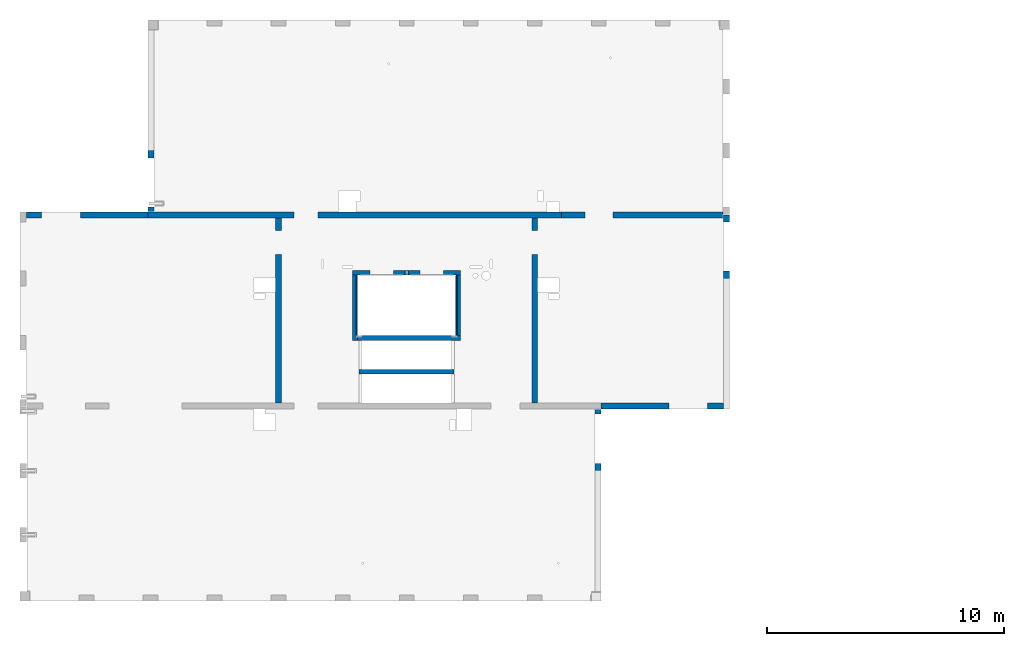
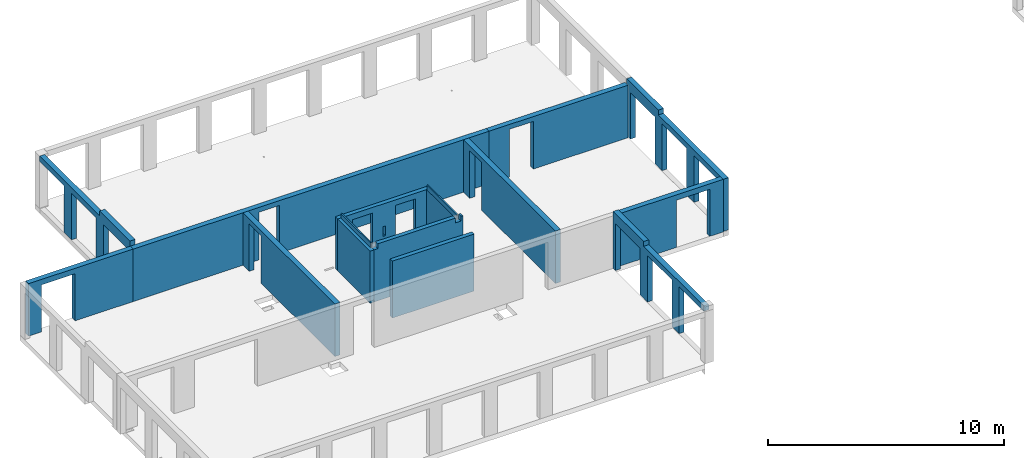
# One storey, part 3 of 11: 16 walls, 23 openings.
"""IFC2X3 building model written with IfcOpenShell, lengths in millimetres."""

from ifc_helpers import new_model, entity, si_unit, converted_unit, derived_unit, direction, frame, frame_2d, origin, origin_2d_with_axis, place, context, subcontext, project, spatial, rectangle, extrude, material, layer, layer_set, layer_usage, type_object, element, save


model = new_model("IFC2X3")

# Units and contexts
model_context = context("Model", 3, precision=0.01, world=origin(), true_north=direction((6.12303176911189e-17, 1.0)))
body_context = subcontext(model_context, "Body", "Model", "MODEL_VIEW")
ifc_project = project(units=[si_unit("LENGTHUNIT", "METRE", prefix="MILLI"), si_unit("AREAUNIT", "SQUARE_METRE"), si_unit("VOLUMEUNIT", "CUBIC_METRE"), converted_unit("PLANEANGLEUNIT", "DEGREE", entity("IfcRatioMeasure", 0.0174532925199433), si_unit("PLANEANGLEUNIT", "RADIAN"), dimensions=[0, 0, 0, 0, 0, 0, 0]), si_unit("MASSUNIT", "GRAM", prefix="KILO"), derived_unit("MASSDENSITYUNIT", [(si_unit("MASSUNIT", "GRAM", prefix="KILO"), 1), (si_unit("LENGTHUNIT", "METRE"), -3)]), si_unit("TIMEUNIT", "SECOND"), si_unit("FREQUENCYUNIT", "HERTZ"), si_unit("THERMODYNAMICTEMPERATUREUNIT", "DEGREE_CELSIUS"), derived_unit("THERMALTRANSMITTANCEUNIT", [(si_unit("MASSUNIT", "GRAM", prefix="KILO"), 1), (si_unit("THERMODYNAMICTEMPERATUREUNIT", "KELVIN"), -1), (si_unit("TIMEUNIT", "SECOND"), -3)]), derived_unit("VOLUMETRICFLOWRATEUNIT", [(si_unit("LENGTHUNIT", "METRE"), 3), (si_unit("TIMEUNIT", "SECOND"), -1)]), si_unit("ELECTRICCURRENTUNIT", "AMPERE"), si_unit("ELECTRICVOLTAGEUNIT", "VOLT"), si_unit("POWERUNIT", "WATT"), si_unit("FORCEUNIT", "NEWTON", prefix="KILO"), si_unit("ILLUMINANCEUNIT", "LUX"), si_unit("LUMINOUSFLUXUNIT", "LUMEN"), si_unit("LUMINOUSINTENSITYUNIT", "CANDELA"), derived_unit("USERDEFINED", [(si_unit("MASSUNIT", "GRAM", prefix="KILO"), -1), (si_unit("LENGTHUNIT", "METRE"), -2), (si_unit("TIMEUNIT", "SECOND"), 3), (si_unit("LUMINOUSFLUXUNIT", "LUMEN"), 1)]), derived_unit("LINEARVELOCITYUNIT", [(si_unit("LENGTHUNIT", "METRE"), 1), (si_unit("TIMEUNIT", "SECOND"), -1)]), si_unit("PRESSUREUNIT", "PASCAL"), derived_unit("USERDEFINED", [(si_unit("LENGTHUNIT", "METRE"), -2), (si_unit("MASSUNIT", "GRAM", prefix="KILO"), 1), (si_unit("TIMEUNIT", "SECOND"), -2)])], contexts=[model_context])

# Site, building, storey
site_placement = place(None, origin())
site = spatial("IfcSite", under=ifc_project, at=site_placement, Name="Default", CompositionType="ELEMENT")
building_placement = place(site_placement, origin())
building = spatial("IfcBuilding", under=site, at=building_placement, Name="niet gebruiken", CompositionType="ELEMENT")
storey_placement = place(building_placement, frame((0.0, 0.0, 57150.0)))
storey = spatial("IfcBuildingStorey", under=building, at=storey_placement, Name="19 negentiende verdieping", CompositionType="ELEMENT", Elevation=57150.0)

# Wall, opening
ifc_material_1 = material(Name="NLRS_f2_beton ihwg")
ifc_layer_1 = layer(ifc_material_1, 250.0)
ifc_layer_set_1 = layer_set([ifc_layer_1], Name="Basic Wall:NLRS_22.21_WA_beton ihwg d=250_gen")
ifc_layer_usage_1 = layer_usage(ifc_layer_set_1, "AXIS2", "NEGATIVE", 125.0)
wall_type_1 = type_object("IfcWallType", Name="Basic Wall:NLRS_22.21_WA_beton ihwg d=250_gen", PredefinedType="STANDARD", material=ifc_layer_set_1)
wall_1_placement = place(storey_placement, frame((27170.0, 45031.0, -90.0)))
wall_1 = element("IfcWallStandardCase", 1, at=wall_1_placement, inside=storey, type_object=wall_type_1, material=ifc_layer_usage_1, Name="Basic Wall:NLRS_22.21_WA_beton ihwg d=250_gen", ObjectType="Basic Wall:NLRS_22.21_WA_beton ihwg d=250_gen", context=body_context, shape_type="SweptSolid", body=[
    extrude(rectangle(XDim=5130.0, YDim=249.999999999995, at=frame_2d((2565.0, 0.0), x_axis=(-1.0, 0.0))), origin(), (0.0, 0.0, 1.0), 2719.99999999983),
])
opening_1_placement = place(wall_1_placement, origin())
element("IfcOpeningElement", 2, at=opening_1_placement, cuts=wall_1, Name="Basic Wall:NLRS_22.21_WA_beton ihwg d=250_gen", ObjectType="Opening", context=body_context, shape_type="SweptSolid", body=[
    extrude(rectangle(XDim=2440.0, YDim=1640.0, at=origin_2d_with_axis()), frame((1460.0, -1649.0, 1220.0), z_axis=(0.0, 1.0, 0.0), x_axis=(0.0, 0.0, 1.0)), (0.0, 0.0, 1.0), 3048.0),
])

ifc_layer_usage_2 = layer_usage(ifc_layer_set_1, "AXIS2", "NEGATIVE", 125.0)
wall_2_placement = place(storey_placement, frame((37800.0, 44906.0, -90.0), z_axis=(0.0, 0.0, 1.0), x_axis=(0.0, -1.0, 0.0)))
wall_2 = element("IfcWallStandardCase", 3, at=wall_2_placement, inside=storey, type_object=wall_type_1, material=ifc_layer_usage_2, Name="Basic Wall:NLRS_22.21_WA_beton ihwg d=250_gen", ObjectType="Basic Wall:NLRS_22.21_WA_beton ihwg d=250_gen", context=body_context, shape_type="SweptSolid", body=[
    extrude(rectangle(XDim=7799.99999999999, YDim=250.000000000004, at=frame_2d((3900.0, 0.0), x_axis=(-1.0, 0.0))), origin(), (0.0, 0.0, 1.0), 2719.99999999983),
])
opening_2_placement = place(wall_2_placement, origin())
element("IfcOpeningElement", 4, at=opening_2_placement, cuts=wall_2, Name="Basic Wall:NLRS_22.21_WA_beton ihwg d=250_gen", ObjectType="Opening", context=body_context, shape_type="SweptSolid", body=[
    extrude(rectangle(XDim=2470.0, YDim=1006.0, at=frame_2d((-4.43378667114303e-12, 0.0), x_axis=(1.0, 0.0))), frame((1027.0, -1649.0, 1235.0), z_axis=(0.0, 1.0, 0.0), x_axis=(0.0, 0.0, 1.0)), (0.0, 0.0, 1.0), 3048.0),
])

ifc_layer_usage_3 = layer_usage(ifc_layer_set_1, "AXIS2", "NEGATIVE", 125.0)
wall_3_placement = place(storey_placement, frame((48600.0, 44906.0, -90.0), z_axis=(0.0, 0.0, 1.0), x_axis=(0.0, -1.0, 0.0)))
wall_3 = element("IfcWallStandardCase", 5, at=wall_3_placement, inside=storey, type_object=wall_type_1, material=ifc_layer_usage_3, Name="Basic Wall:NLRS_22.21_WA_beton ihwg d=250_gen", ObjectType="Basic Wall:NLRS_22.21_WA_beton ihwg d=250_gen", context=body_context, shape_type="SweptSolid", body=[
    extrude(rectangle(XDim=7799.99999999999, YDim=249.999999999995, at=frame_2d((3900.0, 0.0), x_axis=(-1.0, 0.0))), origin(), (0.0, 0.0, 1.0), 2719.99999999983),
])
opening_3_placement = place(wall_3_placement, origin())
element("IfcOpeningElement", 6, at=opening_3_placement, cuts=wall_3, Name="Basic Wall:NLRS_22.21_WA_beton ihwg d=250_gen", ObjectType="Opening", context=body_context, shape_type="SweptSolid", body=[
    extrude(rectangle(XDim=2470.0, YDim=1006.0, at=frame_2d((4.43378667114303e-12, 0.0), x_axis=(1.0, 0.0))), frame((1027.0, -1649.0, 1235.0), z_axis=(0.0, 1.0, 0.0), x_axis=(0.0, 0.0, 1.0)), (0.0, 0.0, 1.0), 3048.0),
])

ifc_layer_usage_4 = layer_usage(ifc_layer_set_1, "AXIS2", "NEGATIVE", 125.0)
wall_4_placement = place(storey_placement, frame((32300.0, 45031.0, -90.0)))
wall_4 = element("IfcWallStandardCase", 7, at=wall_4_placement, inside=storey, type_object=wall_type_1, material=ifc_layer_usage_4, Name="Basic Wall:NLRS_22.21_WA_beton ihwg d=250_gen", ObjectType="Basic Wall:NLRS_22.21_WA_beton ihwg d=250_gen", context=body_context, shape_type="SweptSolid", body=[
    extrude(rectangle(XDim=17425.0, YDim=249.999999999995, at=frame_2d((8712.50000000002, 0.0), x_axis=(-1.0, 0.0))), origin(), (0.0, 0.0, 1.0), 2719.99999999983),
])
opening_4_placement = place(wall_4_placement, origin())
element("IfcOpeningElement", 8, at=opening_4_placement, cuts=wall_4, Name="Basic Wall:NLRS_22.21_WA_beton ihwg d=250_gen", ObjectType="Opening", context=body_context, shape_type="SweptSolid", body=[
    extrude(rectangle(XDim=2470.0, YDim=1006.0, at=frame_2d((4.43378667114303e-12, 2.1600499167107e-12), x_axis=(1.0, 0.0))), frame((6652.0, -1649.0, 1235.0), z_axis=(0.0, 1.0, 0.0), x_axis=(0.0, 0.0, 1.0)), (0.0, 0.0, 1.0), 3048.0),
])

ifc_layer_usage_5 = layer_usage(ifc_layer_set_1, "AXIS2", "NEGATIVE", 125.0)
wall_5_placement = place(storey_placement, frame((51400.0, 36981.0, -90.0)))
wall_5 = element("IfcWallStandardCase", 9, at=wall_5_placement, inside=storey, type_object=wall_type_1, material=ifc_layer_usage_5, Name="Basic Wall:NLRS_22.21_WA_beton ihwg d=250_gen", ObjectType="Basic Wall:NLRS_22.21_WA_beton ihwg d=250_gen", context=body_context, shape_type="SweptSolid", body=[
    extrude(rectangle(XDim=5150.0, YDim=250.000000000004, at=frame_2d((2575.0, 0.0), x_axis=(-1.0, 0.0))), origin(), (0.0, 0.0, 1.0), 2719.99999999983),
])
opening_5_placement = place(wall_5_placement, origin())
element("IfcOpeningElement", 10, at=opening_5_placement, cuts=wall_5, Name="Basic Wall:NLRS_22.21_WA_beton ihwg d=250_gen", ObjectType="Opening", context=body_context, shape_type="SweptSolid", body=[
    extrude(rectangle(XDim=2440.0, YDim=1640.0, at=frame_2d((4.37694325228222e-12, 0.0), x_axis=(0.0, 1.0))), frame((3670.0, -1399.0, 1220.0), z_axis=(0.0, 1.0, 0.0), x_axis=(-1.0, 0.0, 0.0)), (0.0, 0.0, 1.0), 3048.0),
])

ifc_layer_usage_6 = layer_usage(ifc_layer_set_1, "AXIS2", "NEGATIVE", 125.0)
wall_6_placement = place(storey_placement, frame((49725.0, 45031.0, -90.0)))
wall_6 = element("IfcWallStandardCase", 11, at=wall_6_placement, inside=storey, type_object=wall_type_1, material=ifc_layer_usage_6, Name="Basic Wall:NLRS_22.21_WA_beton ihwg d=250_gen", ObjectType="Basic Wall:NLRS_22.21_WA_beton ihwg d=250_gen", context=body_context, shape_type="SweptSolid", body=[
    extrude(rectangle(XDim=6805.0, YDim=249.999999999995, at=frame_2d((3402.5, 0.0), x_axis=(-1.0, 0.0))), origin(), (0.0, 0.0, 1.0), 2719.99999999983),
])
opening_6_placement = place(wall_6_placement, origin())
element("IfcOpeningElement", 12, at=opening_6_placement, cuts=wall_6, Name="Basic Wall:NLRS_22.21_WA_beton ihwg d=250_gen", ObjectType="Opening", context=body_context, shape_type="SweptSolid", body=[
    extrude(rectangle(XDim=2470.0, YDim=1170.0, at=frame_2d((4.43378667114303e-12, 4.32009983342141e-12), x_axis=(1.0, 0.0))), frame((1585.0, -1649.0, 1235.0), z_axis=(0.0, 1.0, 0.0), x_axis=(0.0, 0.0, 1.0)), (0.0, 0.0, 1.0), 3048.0),
])

# Wall, openings
ifc_material_2 = material(Name="NLRS_f2_beton prefab")
ifc_layer_2 = layer(ifc_material_2, 250.0)
ifc_layer_set_2 = layer_set([ifc_layer_2], Name="Basic Wall:NLRS_21.21_WA_beton prefab d=250_gen")
ifc_layer_usage_7 = layer_usage(ifc_layer_set_2, "AXIS2", "NEGATIVE", 125.0)
wall_type_2 = type_object("IfcWallType", Name="Basic Wall:NLRS_21.21_WA_beton prefab d=250_gen", PredefinedType="STANDARD", material=ifc_layer_set_2)
wall_7_placement = place(storey_placement, frame((32425.0, 52846.0, -70.0), z_axis=(0.0, 0.0, 1.0), x_axis=(0.0, -1.0, 0.0)))
wall_7 = element("IfcWallStandardCase", 13, at=wall_7_placement, inside=storey, type_object=wall_type_2, material=ifc_layer_usage_7, Name="Basic Wall:NLRS_21.21_WA_beton prefab d=250_gen", ObjectType="Basic Wall:NLRS_21.21_WA_beton prefab d=250_gen", context=body_context, shape_type="SweptSolid", body=[
    extrude(rectangle(XDim=7670.00000000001, YDim=250.000000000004, at=frame_2d((3835.0, 0.0), x_axis=(-1.0, 0.0))), origin(), (0.0, 0.0, 1.0), 2949.99999999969),
])
opening_7_placement = place(wall_7_placement, origin())
element("IfcOpeningElement", 14, at=opening_7_placement, cuts=wall_7, Name="Basic Wall:NLRS_21.21_WA_beton prefab d=250_gen", ObjectType="Opening", context=body_context, shape_type="SweptSolid", body=[
    extrude(rectangle(XDim=2420.0, YDim=2080.0, at=frame_2d((0.0, 0.0), x_axis=(0.0, 1.0))), frame((1040.0, -1399.0, 1210.0), z_axis=(0.0, 1.0, 0.0), x_axis=(-1.0, 0.0, 0.0)), (0.0, 0.0, 1.0), 3048.0),
])
opening_8_placement = place(wall_7_placement, origin())
element("IfcOpeningElement", 15, at=opening_8_placement, cuts=wall_7, Name="Basic Wall:NLRS_21.21_WA_beton prefab d=250_gen", ObjectType="Opening", context=body_context, shape_type="SweptSolid", body=[
    extrude(rectangle(XDim=2420.0, YDim=2080.0, at=frame_2d((0.0, 0.0), x_axis=(0.0, 1.0))), frame((3740.0, -1399.0, 1210.0), z_axis=(0.0, 1.0, 0.0), x_axis=(-1.0, 0.0, 0.0)), (0.0, 0.0, 1.0), 3048.0),
])
opening_9_placement = place(wall_7_placement, origin())
element("IfcOpeningElement", 16, at=opening_9_placement, cuts=wall_7, Name="Basic Wall:NLRS_21.21_WA_beton prefab d=250_gen", ObjectType="Opening", context=body_context, shape_type="SweptSolid", body=[
    extrude(rectangle(XDim=2420.0, YDim=2080.0, at=frame_2d((0.0, 0.0), x_axis=(0.0, 1.0))), frame((6440.0, -1399.0, 1210.0), z_axis=(0.0, 1.0, 0.0), x_axis=(-1.0, 0.0, 0.0)), (0.0, 0.0, 1.0), 3048.0),
])
opening_10_placement = place(wall_7_placement, origin())
element("IfcOpeningElement", 17, at=opening_10_placement, cuts=wall_7, Name="Basic Wall:NLRS_21.21_WA_beton prefab d=250_gen", ObjectType="Opening", context=body_context, shape_type="SweptSolid", body=[
    extrude(rectangle(XDim=249.999999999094, YDim=5089.99999999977, at=frame_2d((4.32009983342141e-12, -8.66862137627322e-12), x_axis=(0.0, 1.0))), frame((2545.0, 125.0, 2825.0), z_axis=(0.0, -1.0, 0.0), x_axis=(-1.0, 0.0, 0.0)), (0.0, 0.0, 1.0), 250.0),
])

ifc_layer_usage_8 = layer_usage(ifc_layer_set_2, "AXIS2", "NEGATIVE", 125.0)
wall_8_placement = place(storey_placement, frame((56675.0, 45046.0, -70.0), z_axis=(0.0, 0.0, 1.0), x_axis=(0.0, -1.0, 0.0)))
wall_8 = element("IfcWallStandardCase", 18, at=wall_8_placement, inside=storey, type_object=wall_type_2, material=ifc_layer_usage_8, Name="Basic Wall:NLRS_21.21_WA_beton prefab d=250_gen", ObjectType="Basic Wall:NLRS_21.21_WA_beton prefab d=250_gen", context=body_context, shape_type="SweptSolid", body=[
    extrude(rectangle(XDim=8189.99999999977, YDim=249.999999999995, at=frame_2d((4094.99999999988, 0.0), x_axis=(-1.0, 0.0))), origin(), (0.0, 0.0, 1.0), 2949.99999999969),
])
opening_11_placement = place(wall_8_placement, origin())
element("IfcOpeningElement", 19, at=opening_11_placement, cuts=wall_8, Name="Basic Wall:NLRS_21.21_WA_beton prefab d=250_gen", ObjectType="Opening", context=body_context, shape_type="SweptSolid", body=[
    extrude(rectangle(XDim=2420.0, YDim=2080.0, at=frame_2d((0.0, 0.0), x_axis=(0.0, 1.0))), frame((1340.0, -1399.0, 1210.0), z_axis=(0.0, 1.0, 0.0), x_axis=(-1.0, 0.0, 0.0)), (0.0, 0.0, 1.0), 3048.0),
])
opening_12_placement = place(wall_8_placement, origin())
element("IfcOpeningElement", 20, at=opening_12_placement, cuts=wall_8, Name="Basic Wall:NLRS_21.21_WA_beton prefab d=250_gen", ObjectType="Opening", context=body_context, shape_type="SweptSolid", body=[
    extrude(rectangle(XDim=2420.0, YDim=2080.0, at=frame_2d((0.0, 0.0), x_axis=(0.0, 1.0))), frame((4040.0, -1399.0, 1210.0), z_axis=(0.0, 1.0, 0.0), x_axis=(-1.0, 0.0, 0.0)), (0.0, 0.0, 1.0), 3048.0),
])
opening_13_placement = place(wall_8_placement, origin())
element("IfcOpeningElement", 21, at=opening_13_placement, cuts=wall_8, Name="Basic Wall:NLRS_21.21_WA_beton prefab d=250_gen", ObjectType="Opening", context=body_context, shape_type="SweptSolid", body=[
    extrude(rectangle(XDim=2420.0, YDim=2080.0, at=frame_2d((0.0, 0.0), x_axis=(0.0, 1.0))), frame((6740.0, -1399.0, 1210.0), z_axis=(0.0, 1.0, 0.0), x_axis=(-1.0, 0.0, 0.0)), (0.0, 0.0, 1.0), 3048.0),
])
opening_14_placement = place(wall_8_placement, origin())
element("IfcOpeningElement", 22, at=opening_14_placement, cuts=wall_8, Name="Basic Wall:NLRS_21.21_WA_beton prefab d=250_gen", ObjectType="Opening", context=body_context, shape_type="SweptSolid", body=[
    extrude(rectangle(XDim=250.000000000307, YDim=5500.0000000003, at=frame_2d((-8.66862137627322e-12, -4.32009983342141e-12), x_axis=(1.0, 0.0))), frame((5440.0, 125.0, 2825.0), z_axis=(0.0, -1.0, 0.0), x_axis=(0.0, 0.0, 1.0)), (0.0, 0.0, 1.0), 250.0),
])

ifc_layer_usage_9 = layer_usage(ifc_layer_set_2, "AXIS2", "NEGATIVE", 125.0)
wall_9_placement = place(storey_placement, frame((51275.0, 29166.0, -70.0), z_axis=(0.0, 0.0, 1.0), x_axis=(0.0, 1.0, 0.0)))
wall_9 = element("IfcWallStandardCase", 23, at=wall_9_placement, inside=storey, type_object=wall_type_2, material=ifc_layer_usage_9, Name="Basic Wall:NLRS_21.21_WA_beton prefab d=250_gen", ObjectType="Basic Wall:NLRS_21.21_WA_beton prefab d=250_gen", context=body_context, shape_type="SweptSolid", body=[
    extrude(rectangle(XDim=7669.99999999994, YDim=249.999999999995, at=frame_2d((3834.99999999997, 0.0), x_axis=(-1.0, 0.0))), origin(), (0.0, 0.0, 1.0), 2949.99999999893),
])
opening_15_placement = place(wall_9_placement, origin())
element("IfcOpeningElement", 24, at=opening_15_placement, cuts=wall_9, Name="Basic Wall:NLRS_21.21_WA_beton prefab d=250_gen", ObjectType="Opening", context=body_context, shape_type="SweptSolid", body=[
    extrude(rectangle(XDim=2420.0, YDim=2080.0, at=frame_2d((2.1600499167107e-12, 0.0), x_axis=(0.0, 1.0))), frame((1040.0, -1399.0, 1210.0), z_axis=(0.0, 1.0, 0.0), x_axis=(-1.0, 0.0, 0.0)), (0.0, 0.0, 1.0), 3048.0),
])
opening_16_placement = place(wall_9_placement, origin())
element("IfcOpeningElement", 25, at=opening_16_placement, cuts=wall_9, Name="Basic Wall:NLRS_21.21_WA_beton prefab d=250_gen", ObjectType="Opening", context=body_context, shape_type="SweptSolid", body=[
    extrude(rectangle(XDim=2420.0, YDim=2080.0, at=frame_2d((2.1600499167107e-12, 0.0), x_axis=(0.0, 1.0))), frame((6440.0, -1399.0, 1210.0), z_axis=(0.0, 1.0, 0.0), x_axis=(-1.0, 0.0, 0.0)), (0.0, 0.0, 1.0), 3048.0),
])
opening_17_placement = place(wall_9_placement, origin())
element("IfcOpeningElement", 26, at=opening_17_placement, cuts=wall_9, Name="Basic Wall:NLRS_21.21_WA_beton prefab d=250_gen", ObjectType="Opening", context=body_context, shape_type="SweptSolid", body=[
    extrude(rectangle(XDim=2420.0, YDim=2080.0, at=frame_2d((2.1600499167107e-12, 0.0), x_axis=(0.0, 1.0))), frame((3740.0, -1399.0, 1210.0), z_axis=(0.0, 1.0, 0.0), x_axis=(-1.0, 0.0, 0.0)), (0.0, 0.0, 1.0), 3048.0),
])
opening_18_placement = place(wall_9_placement, origin())
element("IfcOpeningElement", 27, at=opening_18_placement, cuts=wall_9, Name="Basic Wall:NLRS_21.21_WA_beton prefab d=250_gen", ObjectType="Opening", context=body_context, shape_type="SweptSolid", body=[
    extrude(rectangle(XDim=249.999999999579, YDim=5090.00000000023, at=frame_2d((0.0, -8.66151594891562e-12), x_axis=(0.0, 1.0))), frame((2545.0, 125.0, 2825.0), z_axis=(0.0, -1.0, 0.0), x_axis=(-1.0, 0.0, 0.0)), (0.0, 0.0, 1.0), 250.0),
])

# Wall
ifc_layer_3 = layer(ifc_material_2, 200.0)
ifc_layer_set_3 = layer_set([ifc_layer_3], Name="Basic Wall:NLRS_21.21_WA_beton prefab d=200_gen")
ifc_layer_usage_10 = layer_usage(ifc_layer_set_3, "AXIS2", "NEGATIVE", 100.0)
wall_type_3 = type_object("IfcWallType", Name="Basic Wall:NLRS_21.21_WA_beton prefab d=200_gen", PredefinedType="STANDARD", material=ifc_layer_set_3)
wall_10_placement = place(storey_placement, frame((41200.0, 38426.0, -70.0)))
element("IfcWallStandardCase", 28, at=wall_10_placement, inside=storey, type_object=wall_type_3, material=ifc_layer_usage_10, Name="Basic Wall:NLRS_21.21_WA_beton prefab d=200_gen", ObjectType="Basic Wall:NLRS_21.21_WA_beton prefab d=200_gen", context=body_context, shape_type="SweptSolid", body=[
    extrude(rectangle(XDim=3999.99999999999, YDim=199.999999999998, at=frame_2d((2000.0, 0.0), x_axis=(-1.0, 0.0))), origin(), (0.0, 0.0, 1.0), 2950.00000000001),
])

# Wall, openings
ifc_layer_4 = layer(ifc_material_2, 200.0)
ifc_layer_set_4 = layer_set([ifc_layer_4], Name="Basic Wall:NLRS_22.21_WA_beton prefab d=200_gen")
ifc_layer_usage_11 = layer_usage(ifc_layer_set_4, "AXIS2", "NEGATIVE", 100.0)
wall_type_4 = type_object("IfcWallType", Name="Basic Wall:NLRS_22.21_WA_beton prefab d=200_gen", PredefinedType="STANDARD", material=ifc_layer_set_4)
wall_11_placement = place(storey_placement, frame((40925.0, 42596.0, -70.0)))
wall_11 = element("IfcWallStandardCase", 29, at=wall_11_placement, inside=storey, type_object=wall_type_4, material=ifc_layer_usage_11, Name="Basic Wall:NLRS_22.21_WA_beton prefab d=200_gen", ObjectType="Basic Wall:NLRS_22.21_WA_beton prefab d=200_gen", context=body_context, shape_type="SweptSolid", body=[
    extrude(rectangle(XDim=4549.99999999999, YDim=200.000000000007, at=frame_2d((2274.99999999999, 7.8159700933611e-13), x_axis=(-1.0, 0.0))), origin(), (0.0, 0.0, 1.0), 2699.99999999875),
])
opening_19_placement = place(wall_11_placement, origin())
element("IfcOpeningElement", 30, at=opening_19_placement, cuts=wall_11, Name="Basic Wall:NLRS_22.21_WA_beton prefab d=200_gen", ObjectType="Opening", context=body_context, shape_type="SweptSolid", body=[
    extrude(rectangle(XDim=2430.0, YDim=980.000000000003, at=origin_2d_with_axis()), frame((1219.99984910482, -1624.0, 1195.0), z_axis=(0.0, 1.0, 0.0), x_axis=(0.0, 0.0, 1.0)), (0.0, 0.0, 1.0), 3048.0),
])
opening_20_placement = place(wall_11_placement, origin())
element("IfcOpeningElement", 31, at=opening_20_placement, cuts=wall_11, Name="Basic Wall:NLRS_22.21_WA_beton prefab d=200_gen", ObjectType="Opening", context=body_context, shape_type="SweptSolid", body=[
    extrude(rectangle(XDim=2430.0, YDim=980.000000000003, at=origin_2d_with_axis()), frame((3329.99984910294, -1624.0, 1195.0), z_axis=(0.0, 1.0, 0.0), x_axis=(0.0, 0.0, 1.0)), (0.0, 0.0, 1.0), 3048.0),
])
opening_21_placement = place(wall_11_placement, origin())
element("IfcOpeningElement", 32, at=opening_21_placement, cuts=wall_11, Name="Basic Wall:NLRS_22.21_WA_beton prefab d=200_gen", ObjectType="Opening", context=body_context, shape_type="SweptSolid", body=[
    extrude(rectangle(XDim=505.000000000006, YDim=135.000000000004, at=frame_2d((-4.33431068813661e-12, 0.0), x_axis=(1.0, 0.0))), frame((2275.0, -1624.0, 1272.50000000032), z_axis=(0.0, 1.0, 0.0), x_axis=(0.0, 0.0, 1.0)), (0.0, 0.0, 1.0), 3048.0),
])

# Wall
ifc_layer_usage_12 = layer_usage(ifc_layer_set_4, "AXIS2", "NEGATIVE", 100.0)
wall_12_placement = place(storey_placement, frame((41025.0, 42496.0, -70.0), z_axis=(0.0, 0.0, 1.0), x_axis=(0.0, -1.0, 0.0)))
element("IfcWallStandardCase", 33, at=wall_12_placement, inside=storey, type_object=wall_type_4, material=ifc_layer_usage_12, Name="Basic Wall:NLRS_22.21_WA_beton prefab d=200_gen", ObjectType="Basic Wall:NLRS_22.21_WA_beton prefab d=200_gen", context=body_context, shape_type="SweptSolid", body=[
    extrude(rectangle(XDim=2749.99999999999, YDim=200.000000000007, at=frame_2d((1375.0, 0.0), x_axis=(-1.0, 0.0))), origin(), (0.0, 0.0, 1.0), 2700.00000000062),
])

# Wall, openings
ifc_layer_usage_13 = layer_usage(ifc_layer_set_4, "AXIS2", "NEGATIVE", 100.0)
wall_13_placement = place(storey_placement, frame((45475.0, 39846.0, -70.0), z_axis=(0.0, 0.0, 1.0), x_axis=(-1.0, 0.0, 0.0)))
wall_13 = element("IfcWallStandardCase", 34, at=wall_13_placement, inside=storey, type_object=wall_type_4, material=ifc_layer_usage_13, Name="Basic Wall:NLRS_22.21_WA_beton prefab d=200_gen", ObjectType="Basic Wall:NLRS_22.21_WA_beton prefab d=200_gen", context=body_context, shape_type="SweptSolid", body=[
    extrude(rectangle(XDim=4349.99999999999, YDim=200.000000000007, at=frame_2d((2174.99999999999, 0.0), x_axis=(-1.0, 0.0))), origin(), (0.0, 0.0, 1.0), 2950.00000000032),
])
opening_22_placement = place(wall_13_placement, origin())
element("IfcOpeningElement", 35, at=opening_22_placement, cuts=wall_13, Name="Basic Wall:NLRS_22.21_WA_beton prefab d=200_gen", ObjectType="Opening", context=body_context, shape_type="SweptSolid", body=[
    extrude(rectangle(XDim=250.000000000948, YDim=274.999999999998, at=frame_2d((0.0, -4.32009983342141e-12), x_axis=(1.0, 0.0))), frame((4312.49999999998, 100.0, 2825.0), z_axis=(0.0, -1.0, 0.0), x_axis=(0.0, 0.0, 1.0)), (0.0, 0.0, 1.0), 200.0),
])
opening_23_placement = place(wall_13_placement, origin())
element("IfcOpeningElement", 36, at=opening_23_placement, cuts=wall_13, Name="Basic Wall:NLRS_22.21_WA_beton prefab d=200_gen", ObjectType="Opening", context=body_context, shape_type="SweptSolid", body=[
    extrude(rectangle(XDim=250.000000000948, YDim=275.000216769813, at=frame_2d((-4.32009983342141e-12, 0.0), x_axis=(0.0, 1.0))), frame((237.50010838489, 100.0, 2825.0), z_axis=(0.0, -1.0, 0.0), x_axis=(-1.0, 0.0, 0.0)), (0.0, 0.0, 1.0), 200.0),
])

# Walls
ifc_layer_usage_14 = layer_usage(ifc_layer_set_4, "AXIS2", "NEGATIVE", 100.0)
wall_14_placement = place(storey_placement, frame((45375.0, 39946.0, -70.0), z_axis=(0.0, 0.0, 1.0), x_axis=(0.0, 1.0, 0.0)))
element("IfcWallStandardCase", 37, at=wall_14_placement, inside=storey, type_object=wall_type_4, material=ifc_layer_usage_14, Name="Basic Wall:NLRS_22.21_WA_beton prefab d=200_gen", ObjectType="Basic Wall:NLRS_22.21_WA_beton prefab d=200_gen", context=body_context, shape_type="SweptSolid", body=[
    extrude(rectangle(XDim=2549.99999999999, YDim=200.000000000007, at=frame_2d((1275.0, 0.0), x_axis=(-1.0, 0.0))), origin(), (0.0, 0.0, 1.0), 2700.00000000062),
])
ifc_layer_5 = layer(ifc_material_2, 60.0)
ifc_layer_set_5 = layer_set([ifc_layer_5], Name="Basic Wall:NLRS_22.21_WA_beton prefab d=60_gen")
ifc_layer_usage_15 = layer_usage(ifc_layer_set_5, "AXIS2", "NEGATIVE", 30.0)
wall_type_5 = type_object("IfcWallType", Name="Basic Wall:NLRS_22.21_WA_beton prefab d=60_gen", PredefinedType="STANDARD", material=ifc_layer_set_5)
wall_15_placement = place(storey_placement, frame((41095.0, 42476.0, 2630.0), z_axis=(0.0, 0.0, 1.0), x_axis=(0.0, -1.0, 0.0)))
element("IfcWallStandardCase", 38, at=wall_15_placement, inside=storey, type_object=wall_type_5, material=ifc_layer_usage_15, Name="Basic Wall:NLRS_22.21_WA_beton prefab d=60_gen", ObjectType="Basic Wall:NLRS_22.21_WA_beton prefab d=60_gen", context=body_context, shape_type="SweptSolid", body=[
    extrude(rectangle(XDim=2510.00000000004, YDim=60.0000000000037, at=frame_2d((1255.00000000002, 0.0), x_axis=(-1.0, 0.0))), origin(), (0.0, 0.0, 1.0), 250.000000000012),
])
ifc_layer_usage_16 = layer_usage(ifc_layer_set_5, "AXIS2", "POSITIVE", -30.0)
wall_16_placement = place(storey_placement, frame((45305.0, 42476.0, 2630.0), z_axis=(0.0, 0.0, 1.0), x_axis=(0.0, -1.0, 0.0)))
element("IfcWallStandardCase", 39, at=wall_16_placement, inside=storey, type_object=wall_type_5, material=ifc_layer_usage_16, Name="Basic Wall:NLRS_22.21_WA_beton prefab d=60_gen", ObjectType="Basic Wall:NLRS_22.21_WA_beton prefab d=60_gen", context=body_context, shape_type="SweptSolid", body=[
    extrude(rectangle(XDim=2510.00000000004, YDim=60.0000000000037, at=frame_2d((1255.00000000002, 0.0), x_axis=(-1.0, 0.0))), origin(), (0.0, 0.0, 1.0), 250.000000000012),
])

save(model, "model.ifc")
